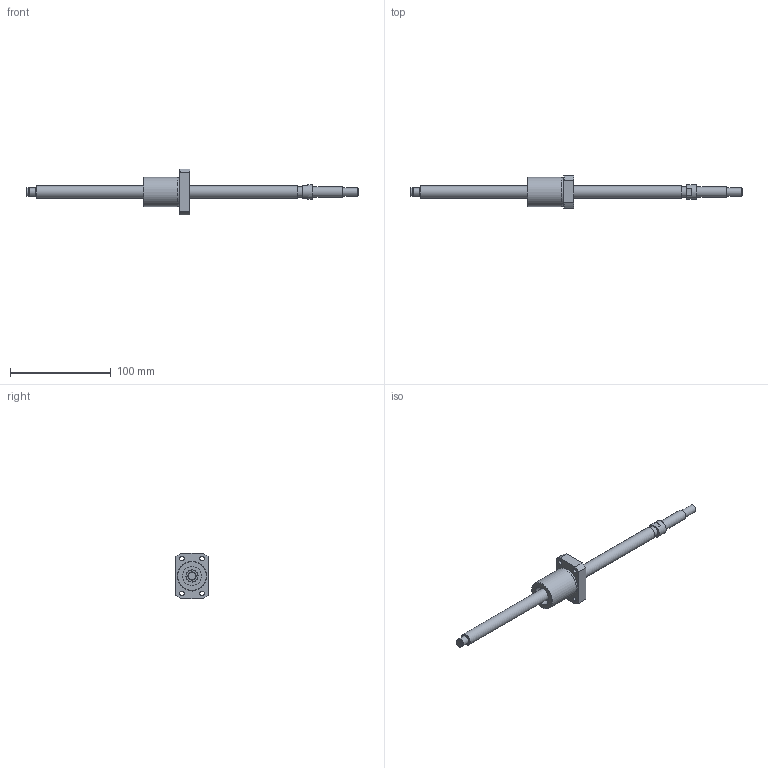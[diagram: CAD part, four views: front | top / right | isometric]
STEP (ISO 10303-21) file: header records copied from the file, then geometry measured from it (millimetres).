
FILE_DESCRIPTION(/* description */ ('STEP AP203'),/* implementation_level */ '2;1');
FILE_NAME(/* name */ 'BNK1208-2.6RRG2+330LC7Y(1530)',/* time_stamp */ '2024-07-09T09:11:09+02:00',/* author */ ('License CC BY-ND 4.0'),/* organization */ ('CADENAS'),/* preprocessor_version */ 'ST-DEVELOPER v19.3',/* originating_system */ 'PARTsolutions',/* authorisation */ ' ');
FILE_SCHEMA (('CONFIG_CONTROL_DESIGN','FEATURE_BASED_PROCESS_PLANNING','MODEL_BASED_INTEGRATED_MANUFACTURING_SCHEMA'));
Length unit declared in the file: millimetre
Products named in the file (3): BNK1208-2.6RRG2+330LC7Y(1530); BNK 1208-2.6RRG2+330LC7Y Shaft; BNK 1208-2.6RRG2+330LC7YRR0 Nut
Assembly tree (2 placements, depth 2):
  BNK1208-2.6RRG2+330LC7Y(1530)
    BNK 1208-2.6RRG2+330LC7Y Shaft
    BNK 1208-2.6RRG2+330LC7YRR0 Nut
Bounding box: 330 x 32 x 45 mm (x, y, z)
Volume: 63809 mm3; surface area: 22499.5 mm2
Topology: 2 solids, 2 shells, 76 faces, 158 edges, 101 vertices
Faces by surface type: plane 29, cylinder 29, cone 16, torus 2
Full cylindrical faces by diameter (mm): 3 x3, 4.5 x4, 4.917 x1, 7.6 x1, 8 x7, 10 x2, 12 x2, 14 x1, 19 x2, 28.4 x1, 29 x1
Entity records: 1972 total; most frequent: CARTESIAN_POINT 385, DIRECTION 332, ORIENTED_EDGE 236, AXIS2_PLACEMENT_3D 154, FACE_BOUND 140, EDGE_LOOP 139, EDGE_CURVE 118, VERTEX_POINT 98
